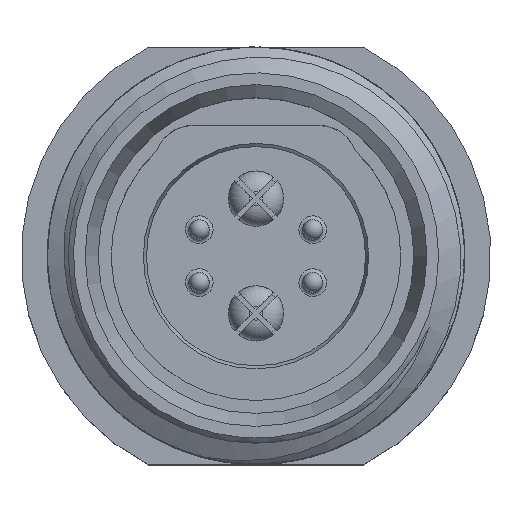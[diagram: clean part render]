
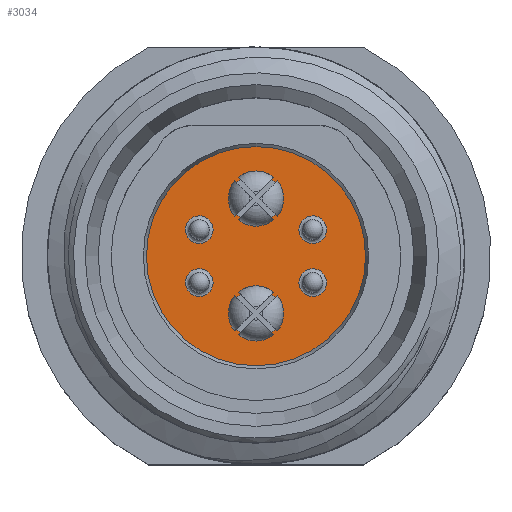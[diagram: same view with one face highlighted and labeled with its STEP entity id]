
A CAD part, top view. The second image highlights one B-rep face of the part: STEP entity #3034.
In plain terms, the highlighted planar face has unit normal (0, 0, 1).
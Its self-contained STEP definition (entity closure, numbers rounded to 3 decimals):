
#265 = FACE_OUTER_BOUND ( 'NONE', #2495, .T. ) ;
#323 = VERTEX_POINT ( 'NONE', #6942 ) ;
#347 = AXIS2_PLACEMENT_3D ( 'NONE', #4296, #882, #6535 ) ;
#424 = AXIS2_PLACEMENT_3D ( 'NONE', #7204, #584, #4448 ) ;
#579 = CIRCLE ( 'NONE', #2581, 0.95 ) ;
#584 = DIRECTION ( 'NONE',  ( 0., 0., 1. ) ) ;
#739 = VERTEX_POINT ( 'NONE', #2423 ) ;
#828 = EDGE_CURVE ( 'NONE', #5775, #5775, #4655, .T. ) ;
#845 = CARTESIAN_POINT ( 'NONE',  ( -2.666, 0.811, 0. ) ) ;
#849 = ORIENTED_EDGE ( 'NONE', *, *, #4190, .T. ) ;
#860 = FACE_BOUND ( 'NONE', #5112, .T. ) ;
#882 = DIRECTION ( 'NONE',  ( 0., 0., -1. ) ) ;
#985 = CARTESIAN_POINT ( 'NONE',  ( -2.666, -1.218, 0. ) ) ;
#998 = EDGE_CURVE ( 'NONE', #739, #739, #579, .T. ) ;
#1057 = VERTEX_POINT ( 'NONE', #985 ) ;
#1126 = DIRECTION ( 'NONE',  ( -0.924, -0.383, 0. ) ) ;
#1223 = ORIENTED_EDGE ( 'NONE', *, *, #6787, .T. ) ;
#1242 = DIRECTION ( 'NONE',  ( -0.924, -0.383, 0. ) ) ;
#1272 = EDGE_CURVE ( 'NONE', #323, #323, #4113, .T. ) ;
#1442 = FACE_BOUND ( 'NONE', #3633, .T. ) ;
#1513 = DIRECTION ( 'NONE',  ( -0.924, -0.383, 0. ) ) ;
#1584 = EDGE_CURVE ( 'NONE', #1937, #1937, #6230, .T. ) ;
#1628 = EDGE_LOOP ( 'NONE', ( #849 ) ) ;
#1654 = CIRCLE ( 'NONE', #347, 0.531 ) ;
#1876 = AXIS2_PLACEMENT_3D ( 'NONE', #5608, #2668, #1126 ) ;
#1898 = DIRECTION ( 'NONE',  ( 0., 0., -1. ) ) ;
#1937 = VERTEX_POINT ( 'NONE', #845 ) ;
#1987 = PLANE ( 'NONE',  #2122 ) ;
#2010 = CARTESIAN_POINT ( 'NONE',  ( 0., 0., 0. ) ) ;
#2122 = AXIS2_PLACEMENT_3D ( 'NONE', #5928, #6112, #1513 ) ;
#2131 = ORIENTED_EDGE ( 'NONE', *, *, #5675, .T. ) ;
#2277 = CARTESIAN_POINT ( 'NONE',  ( 0., -2.2, 0. ) ) ;
#2423 = CARTESIAN_POINT ( 'NONE',  ( -0.95, -2.2, 0. ) ) ;
#2495 = EDGE_LOOP ( 'NONE', ( #3125 ) ) ;
#2533 = CARTESIAN_POINT ( 'NONE',  ( 1.685, 0.811, 0. ) ) ;
#2564 = DIRECTION ( 'NONE',  ( 0., 0., -1. ) ) ;
#2581 = AXIS2_PLACEMENT_3D ( 'NONE', #2277, #5067, #3969 ) ;
#2668 = DIRECTION ( 'NONE',  ( 0., 0., -1. ) ) ;
#3034 = ADVANCED_FACE ( 'NONE', ( #3066, #7023, #860, #5304, #265, #6988, #1442 ), #1987, .F. ) ;
#3066 = FACE_BOUND ( 'NONE', #1628, .T. ) ;
#3122 = DIRECTION ( 'NONE',  ( -0.924, -0.383, 0. ) ) ;
#3125 = ORIENTED_EDGE ( 'NONE', *, *, #1272, .F. ) ;
#3156 = CARTESIAN_POINT ( 'NONE',  ( 2.175, -1.014, 0. ) ) ;
#3270 = EDGE_LOOP ( 'NONE', ( #1223 ) ) ;
#3480 = ORIENTED_EDGE ( 'NONE', *, *, #828, .F. ) ;
#3519 = AXIS2_PLACEMENT_3D ( 'NONE', #3156, #5391, #3122 ) ;
#3633 = EDGE_LOOP ( 'NONE', ( #3480 ) ) ;
#3648 = ORIENTED_EDGE ( 'NONE', *, *, #1584, .T. ) ;
#3888 = CIRCLE ( 'NONE', #6469, 0.531 ) ;
#3969 = DIRECTION ( 'NONE',  ( -1., 0., 0. ) ) ;
#4113 = CIRCLE ( 'NONE', #5403, 4.2 ) ;
#4190 = EDGE_CURVE ( 'NONE', #5840, #5840, #1654, .T. ) ;
#4296 = CARTESIAN_POINT ( 'NONE',  ( 2.175, 1.014, 0. ) ) ;
#4448 = DIRECTION ( 'NONE',  ( 1., 0., 0. ) ) ;
#4485 = EDGE_LOOP ( 'NONE', ( #4518 ) ) ;
#4518 = ORIENTED_EDGE ( 'NONE', *, *, #998, .F. ) ;
#4655 = CIRCLE ( 'NONE', #424, 0.95 ) ;
#4697 = CARTESIAN_POINT ( 'NONE',  ( -2.175, -1.014, 0. ) ) ;
#5067 = DIRECTION ( 'NONE',  ( 0., 0., 1. ) ) ;
#5112 = EDGE_LOOP ( 'NONE', ( #3648 ) ) ;
#5217 = CARTESIAN_POINT ( 'NONE',  ( 0.95, 2.2, 0. ) ) ;
#5304 = FACE_BOUND ( 'NONE', #6532, .T. ) ;
#5391 = DIRECTION ( 'NONE',  ( 0., 0., -1. ) ) ;
#5403 = AXIS2_PLACEMENT_3D ( 'NONE', #2010, #2564, #7116 ) ;
#5548 = VERTEX_POINT ( 'NONE', #7260 ) ;
#5608 = CARTESIAN_POINT ( 'NONE',  ( -2.175, 1.014, 0. ) ) ;
#5675 = EDGE_CURVE ( 'NONE', #1057, #1057, #3888, .T. ) ;
#5775 = VERTEX_POINT ( 'NONE', #5217 ) ;
#5840 = VERTEX_POINT ( 'NONE', #2533 ) ;
#5928 = CARTESIAN_POINT ( 'NONE',  ( 1.972, 1.505, 0. ) ) ;
#6112 = DIRECTION ( 'NONE',  ( 0., 0., -1. ) ) ;
#6230 = CIRCLE ( 'NONE', #1876, 0.531 ) ;
#6469 = AXIS2_PLACEMENT_3D ( 'NONE', #4697, #1898, #1242 ) ;
#6532 = EDGE_LOOP ( 'NONE', ( #2131 ) ) ;
#6535 = DIRECTION ( 'NONE',  ( -0.924, -0.383, 0. ) ) ;
#6693 = CIRCLE ( 'NONE', #3519, 0.531 ) ;
#6787 = EDGE_CURVE ( 'NONE', #5548, #5548, #6693, .T. ) ;
#6942 = CARTESIAN_POINT ( 'NONE',  ( 0., 4.2, 0. ) ) ;
#6988 = FACE_BOUND ( 'NONE', #4485, .T. ) ;
#7023 = FACE_BOUND ( 'NONE', #3270, .T. ) ;
#7116 = DIRECTION ( 'NONE',  ( 0., 1., 0. ) ) ;
#7204 = CARTESIAN_POINT ( 'NONE',  ( 0., 2.2, 0. ) ) ;
#7260 = CARTESIAN_POINT ( 'NONE',  ( 1.685, -1.218, 0. ) ) ;
